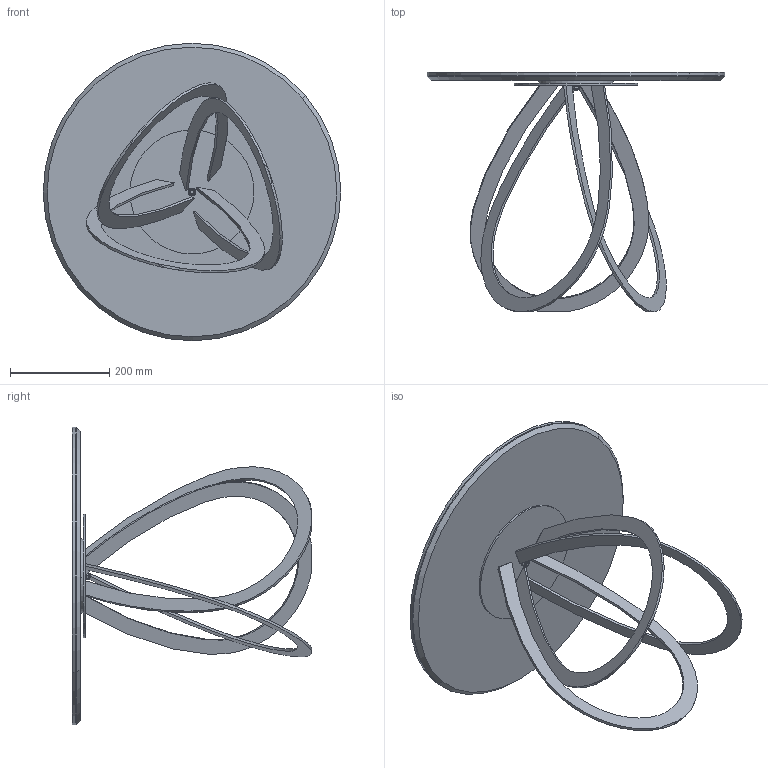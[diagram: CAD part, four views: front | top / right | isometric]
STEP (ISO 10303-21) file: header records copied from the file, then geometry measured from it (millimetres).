
FILE_DESCRIPTION (( 'STEP AP203' ), '1' );
FILE_NAME ('FL01C_Febe Low_d60xh48_Ceramic.STEP', '2024-08-06T08:55:03', ( '' ), ( '' ), 'SwSTEP 2.0', 'SolidWorks 2022', '' );
FILE_SCHEMA (( 'CONFIG_CONTROL_DESIGN' ));
Length unit declared in the file: millimetre
Products named in the file (10): nut_M8_M8; FL01C_Febe Low_d60xh48_Ceramic; KXXCXX-00-Piani Rotondi in ceramica CON PIASTRA_K01P PIANO CERAMICA D.60cm; P0000006-00-PIASTRA D.150mm X PIANI CER_CRI_MARMO_PIASTRA; FET00000048_01-00-FEBE DISCO METALLO SUPERIORE H.48cm_pos. gambe 500; GRANO M8_barra; rondella M8_8X16; K1XCMXX-00-Piani Rotondi in ceramica_D.600; FET000000XX-00-FEBE STRUTTURA BASE H.XXcm_FEBE 80; FET00000048_02-00-FEBE GAMBA PER H.48cm_gamba per febe 80
Assembly tree (11 placements, depth 3):
  FL01C_Febe Low_d60xh48_Ceramic
    KXXCXX-00-Piani Rotondi in ceramica CON PIASTRA_K01P PIANO CERAMICA D.60cm
      K1XCMXX-00-Piani Rotondi in ceramica_D.600
      P0000006-00-PIASTRA D.150mm X PIANI CER_CRI_MARMO_PIASTRA
    FET000000XX-00-FEBE STRUTTURA BASE H.XXcm_FEBE 80
      FET00000048_02-00-FEBE GAMBA PER H.48cm_gamba per febe 80  x3
      FET00000048_01-00-FEBE DISCO METALLO SUPERIORE H.48cm_pos. gambe 500
    GRANO M8_barra
    nut_M8_M8
    rondella M8_8X16
Bounding box: 599.98 x 482.62 x 599.98 mm (x, y, z)
Volume: 5304913.5 mm3; surface area: 1542902.2 mm2
Topology: 10 solids, 10 shells, 125 faces, 276 edges, 177 vertices
Faces by surface type: plane 53, cylinder 38, cone 14, bspline 12, torus 8
Entity records: 4488 total; most frequent: CARTESIAN_POINT 952, DIRECTION 550, ORIENTED_EDGE 472, EDGE_CURVE 236, AXIS2_PLACEMENT_3D 225, VERTEX_POINT 151, EDGE_LOOP 127, ADVANCED_FACE 107
